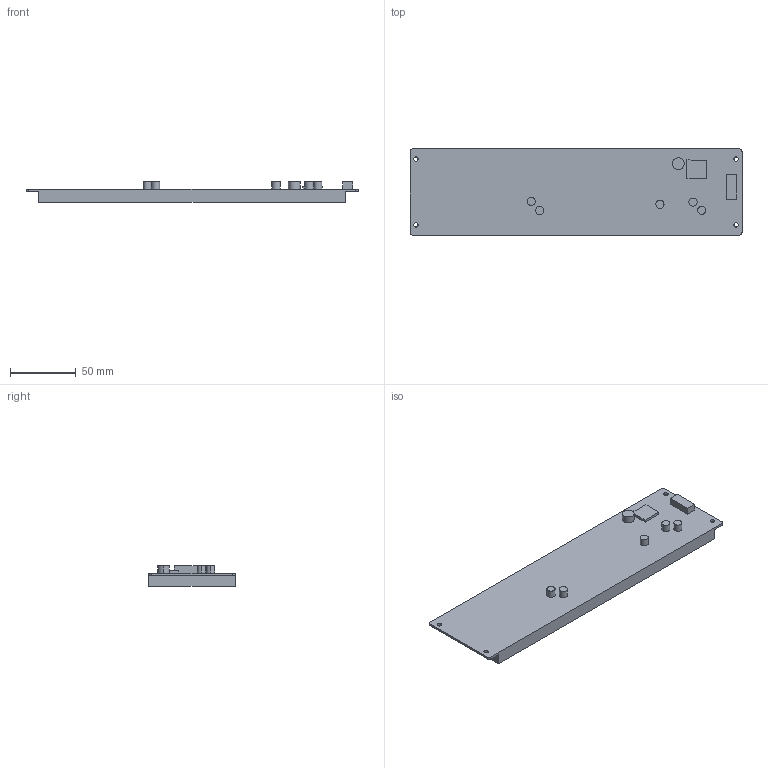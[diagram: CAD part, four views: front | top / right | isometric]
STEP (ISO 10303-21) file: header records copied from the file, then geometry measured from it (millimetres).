
FILE_DESCRIPTION((''),'2;1');
FILE_NAME('DMG19480T088-01WN-WTR','2021-10-26T',('Administrator'),(''),'PRO/ENGINEER BY PARAMETRIC TECHNOLOGY CORPORATION, 2008380','PRO/ENGINEER BY PARAMETRIC TECHNOLOGY CORPORATION, 2008380','');
FILE_SCHEMA(('CONFIG_CONTROL_DESIGN'));
Length unit declared in the file: millimetre
Products named in the file (1): DMG19480T088-01WN-WTR
Bounding box: 252 x 65.4 x 15.9 mm (x, y, z)
Volume: 152978.1 mm3; surface area: 65210.9 mm2
Topology: 1 solids, 2 shells, 58 faces, 16226 edges, 26856 vertices
Faces by surface type: plane 34, cylinder 24
Entity records: 87642 total; most frequent: DIRECTION 21833, CARTESIAN_POINT 16377, TRIMMED_CURVE 16088, VECTOR 10737, LINE 10737, AXIS2_PLACEMENT_3D 5548, CIRCLE 5489, ORIENTED_EDGE 276
